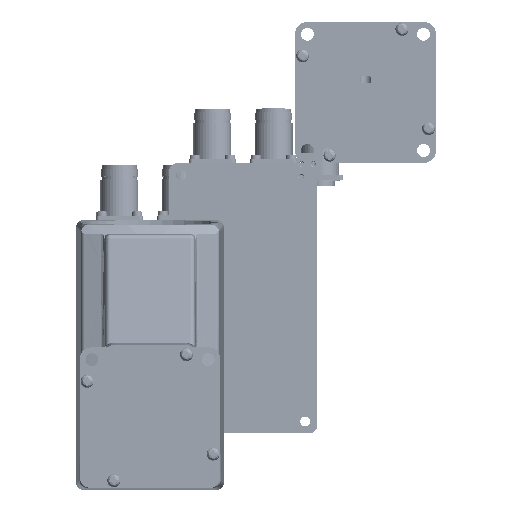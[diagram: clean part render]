
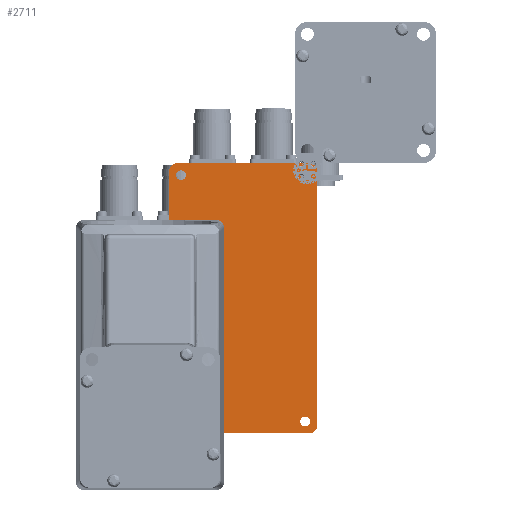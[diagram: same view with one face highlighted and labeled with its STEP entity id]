
A CAD part, front view. The second image highlights one B-rep face of the part: STEP entity #2711.
In plain terms, the highlighted planar face has unit normal (0, -1, 0).
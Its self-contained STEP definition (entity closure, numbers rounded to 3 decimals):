
#2711 = ADVANCED_FACE( '', ( #7202, #7203, #7204, #7205, #7206 ), #7207, .T. );
#7202 = FACE_OUTER_BOUND( '', #16071, .T. );
#7203 = FACE_BOUND( '', #16072, .T. );
#7204 = FACE_BOUND( '', #16073, .T. );
#7205 = FACE_BOUND( '', #16074, .T. );
#7206 = FACE_BOUND( '', #16075, .T. );
#7207 = PLANE( '', #16076 );
#16071 = EDGE_LOOP( '', ( #38218, #38219, #38220, #38221, #38222, #38223, #38224, #38225 ) );
#16072 = EDGE_LOOP( '', ( #38226 ) );
#16073 = EDGE_LOOP( '', ( #38227 ) );
#16074 = EDGE_LOOP( '', ( #38228 ) );
#16075 = EDGE_LOOP( '', ( #38229 ) );
#16076 = AXIS2_PLACEMENT_3D( '', #38230, #38231, #38232 );
#38218 = ORIENTED_EDGE( '', *, *, #54054, .T. );
#38219 = ORIENTED_EDGE( '', *, *, #53241, .T. );
#38220 = ORIENTED_EDGE( '', *, *, #54055, .T. );
#38221 = ORIENTED_EDGE( '', *, *, #54056, .T. );
#38222 = ORIENTED_EDGE( '', *, *, #54057, .T. );
#38223 = ORIENTED_EDGE( '', *, *, #54058, .T. );
#38224 = ORIENTED_EDGE( '', *, *, #54059, .T. );
#38225 = ORIENTED_EDGE( '', *, *, #54060, .T. );
#38226 = ORIENTED_EDGE( '', *, *, #52837, .F. );
#38227 = ORIENTED_EDGE( '', *, *, #54061, .F. );
#38228 = ORIENTED_EDGE( '', *, *, #54062, .F. );
#38229 = ORIENTED_EDGE( '', *, *, #54063, .F. );
#38230 = CARTESIAN_POINT( '', ( -49.717, 0., 14.646 ) );
#38231 = DIRECTION( '', ( 0., -1., 0. ) );
#38232 = DIRECTION( '', ( 0., 0., -1. ) );
#52837 = EDGE_CURVE( '', #59823, #59823, #59824, .T. );
#53241 = EDGE_CURVE( '', #60535, #60536, #60537, .T. );
#54054 = EDGE_CURVE( '', #61926, #60535, #61927, .T. );
#54055 = EDGE_CURVE( '', #60536, #61928, #61929, .T. );
#54056 = EDGE_CURVE( '', #61928, #61930, #61931, .T. );
#54057 = EDGE_CURVE( '', #61930, #61932, #61933, .T. );
#54058 = EDGE_CURVE( '', #61932, #61934, #61935, .T. );
#54059 = EDGE_CURVE( '', #61934, #61936, #61937, .T. );
#54060 = EDGE_CURVE( '', #61936, #61926, #61938, .T. );
#54061 = EDGE_CURVE( '', #61939, #61939, #61940, .T. );
#54062 = EDGE_CURVE( '', #61941, #61941, #61942, .T. );
#54063 = EDGE_CURVE( '', #61943, #61943, #61944, .T. );
#59823 = VERTEX_POINT( '', #70797 );
#59824 = CIRCLE( '', #70798, 2.1 );
#60535 = VERTEX_POINT( '', #74200 );
#60536 = VERTEX_POINT( '', #74201 );
#60537 = ELLIPSE( '', #74202, 3.201, 3.2 );
#61926 = VERTEX_POINT( '', #80517 );
#61927 = LINE( '', #80518, #80519 );
#61928 = VERTEX_POINT( '', #80520 );
#61929 = LINE( '', #80521, #80522 );
#61930 = VERTEX_POINT( '', #80523 );
#61931 = ELLIPSE( '', #80524, 3.201, 3.2 );
#61932 = VERTEX_POINT( '', #80525 );
#61933 = LINE( '', #80526, #80527 );
#61934 = VERTEX_POINT( '', #80528 );
#61935 = ELLIPSE( '', #80529, 3.201, 3.2 );
#61936 = VERTEX_POINT( '', #80530 );
#61937 = LINE( '', #80531, #80532 );
#61938 = ELLIPSE( '', #80533, 3.201, 3.2 );
#61939 = VERTEX_POINT( '', #80534 );
#61940 = CIRCLE( '', #80535, 2.1 );
#61941 = VERTEX_POINT( '', #80536 );
#61942 = CIRCLE( '', #80537, 2.1 );
#61943 = VERTEX_POINT( '', #80538 );
#61944 = CIRCLE( '', #80539, 2.1 );
#70797 = CARTESIAN_POINT( '', ( -44.87, 0., -97.991 ) );
#70798 = AXIS2_PLACEMENT_3D( '', #112001, #112002, #112003 );
#74200 = CARTESIAN_POINT( '', ( 13.1, 0., 10.88 ) );
#74201 = CARTESIAN_POINT( '', ( 9.901, 0., 14.079 ) );
#74202 = AXIS2_PLACEMENT_3D( '', #112484, #112485, #112486 );
#80517 = CARTESIAN_POINT( '', ( 13.1, 0., -97.721 ) );
#80518 = CARTESIAN_POINT( '', ( 13.1, 0., 14.646 ) );
#80519 = VECTOR( '', #113459, 1000. );
#80520 = CARTESIAN_POINT( '', ( -46.7, 0., 14.079 ) );
#80521 = CARTESIAN_POINT( '', ( -49.717, 0., 14.079 ) );
#80522 = VECTOR( '', #113460, 1000. );
#80523 = CARTESIAN_POINT( '', ( -49.9, 0., 10.88 ) );
#80524 = AXIS2_PLACEMENT_3D( '', #113461, #113462, #113463 );
#80525 = CARTESIAN_POINT( '', ( -49.9, 0., -97.721 ) );
#80526 = CARTESIAN_POINT( '', ( -49.9, 0., 14.646 ) );
#80527 = VECTOR( '', #113464, 1000. );
#80528 = CARTESIAN_POINT( '', ( -46.7, 0., -100.921 ) );
#80529 = AXIS2_PLACEMENT_3D( '', #113465, #113466, #113467 );
#80530 = CARTESIAN_POINT( '', ( 9.901, 0., -100.921 ) );
#80531 = CARTESIAN_POINT( '', ( -49.717, 0., -100.921 ) );
#80532 = VECTOR( '', #113468, 1000. );
#80533 = AXIS2_PLACEMENT_3D( '', #113469, #113470, #113471 );
#80534 = CARTESIAN_POINT( '', ( 8.07, 0., -97.991 ) );
#80535 = AXIS2_PLACEMENT_3D( '', #113472, #113473, #113474 );
#80536 = CARTESIAN_POINT( '', ( -44.87, 0., 6.949 ) );
#80537 = AXIS2_PLACEMENT_3D( '', #113475, #113476, #113477 );
#80538 = CARTESIAN_POINT( '', ( 8.07, 0., 6.949 ) );
#80539 = AXIS2_PLACEMENT_3D( '', #113478, #113479, #113480 );
#112001 = CARTESIAN_POINT( '', ( -44.87, 0., -95.891 ) );
#112002 = DIRECTION( '', ( 0., -1., 0. ) );
#112003 = DIRECTION( '', ( 0., 0., -1. ) );
#112484 = CARTESIAN_POINT( '', ( 9.9, 0., 10.879 ) );
#112485 = DIRECTION( '', ( 0., -1., 0. ) );
#112486 = DIRECTION( '', ( -0.707, 0., -0.707 ) );
#113459 = DIRECTION( '', ( 0., 0., 1. ) );
#113460 = DIRECTION( '', ( -1., 0., 0. ) );
#113461 = CARTESIAN_POINT( '', ( -46.699, 0., 10.879 ) );
#113462 = DIRECTION( '', ( 0., -1., 0. ) );
#113463 = DIRECTION( '', ( -0.707, 0., 0.707 ) );
#113464 = DIRECTION( '', ( 0., 0., -1. ) );
#113465 = CARTESIAN_POINT( '', ( -46.699, 0., -97.72 ) );
#113466 = DIRECTION( '', ( 0., -1., 0. ) );
#113467 = DIRECTION( '', ( -0.707, 0., -0.707 ) );
#113468 = DIRECTION( '', ( 1., 0., 0. ) );
#113469 = CARTESIAN_POINT( '', ( 9.9, 0., -97.72 ) );
#113470 = DIRECTION( '', ( 0., -1., 0. ) );
#113471 = DIRECTION( '', ( -0.707, 0., 0.707 ) );
#113472 = CARTESIAN_POINT( '', ( 8.07, 0., -95.891 ) );
#113473 = DIRECTION( '', ( 0., -1., 0. ) );
#113474 = DIRECTION( '', ( 0., 0., -1. ) );
#113475 = CARTESIAN_POINT( '', ( -44.87, 0., 9.049 ) );
#113476 = DIRECTION( '', ( 0., -1., 0. ) );
#113477 = DIRECTION( '', ( 0., 0., -1. ) );
#113478 = CARTESIAN_POINT( '', ( 8.07, 0., 9.049 ) );
#113479 = DIRECTION( '', ( 0., -1., 0. ) );
#113480 = DIRECTION( '', ( 0., 0., -1. ) );
